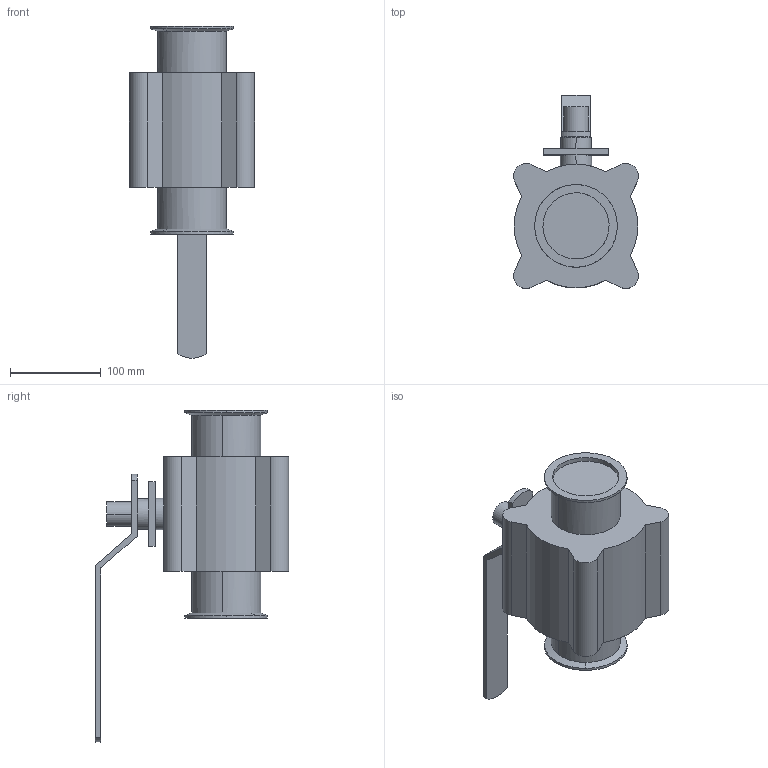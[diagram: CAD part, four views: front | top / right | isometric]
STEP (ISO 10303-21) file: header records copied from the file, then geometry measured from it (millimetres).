
FILE_DESCRIPTION(('Creo Elements/Direct Modeling STEP Export'),'2;1');
FILE_NAME('BLV1-3T-H-12CL.stp','2019-05-10T 8:24:20',(''),(''),'Creo Elements/Direct Modeling STEP processor for AP214 (Solid Model)','Creo Elements/Direct Modeling 19.0F 14-Feb-2017 (C) Parametric Technology GmbH','');
FILE_SCHEMA(('AUTOMOTIVE_DESIGN { 1 0 10303 214 1 1 1 1 }'));
Length unit declared in the file: millimetre
Products named in the file (2): BLV1-3T-H-12CL
Assembly tree (1 placements, depth 2):
  BLV1-3T-H-12CL
    BLV1-3T-H-12CL
Bounding box: 137.58 x 212.79 x 365.4 mm (x, y, z)
Volume: 2734565.1 mm3; surface area: 174954.9 mm2
Topology: 1 solids, 1 shells, 64 faces, 162 edges, 108 vertices
Faces by surface type: plane 32, cylinder 28, cone 4
Entity records: 1877 total; most frequent: CARTESIAN_POINT 351, ORIENTED_EDGE 324, DIRECTION 294, EDGE_CURVE 162, VERTEX_POINT 108, AXIS2_PLACEMENT_3D 102, VECTOR 90, LINE 90
